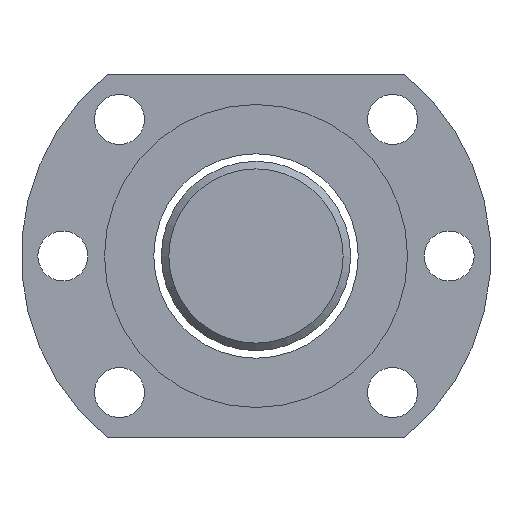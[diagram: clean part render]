
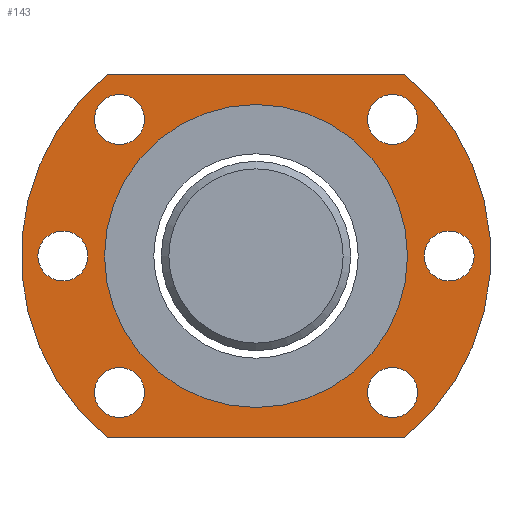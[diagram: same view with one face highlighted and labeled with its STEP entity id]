
A CAD part, left-side view. The second image highlights one B-rep face of the part: STEP entity #143.
In plain terms, the highlighted planar face has unit normal (-1, 0, 0).
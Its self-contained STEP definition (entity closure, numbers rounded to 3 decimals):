
#115=LINE('',#622,#123);
#116=LINE('',#626,#124);
#123=VECTOR('',#520,1.);
#124=VECTOR('',#523,1.);
#132=PLANE('',#452);
#143=ADVANCED_FACE('',(#189,#190,#191,#192,#193,#194,#195,#196),#132,.T.);
#189=FACE_BOUND('',#233,.T.);
#190=FACE_BOUND('',#234,.T.);
#191=FACE_BOUND('',#235,.T.);
#192=FACE_BOUND('',#236,.T.);
#193=FACE_BOUND('',#237,.T.);
#194=FACE_BOUND('',#238,.T.);
#195=FACE_BOUND('',#239,.T.);
#196=FACE_BOUND('',#240,.T.);
#233=EDGE_LOOP('',(#286));
#234=EDGE_LOOP('',(#287));
#235=EDGE_LOOP('',(#288,#289,#290,#291));
#236=EDGE_LOOP('',(#292));
#237=EDGE_LOOP('',(#293));
#238=EDGE_LOOP('',(#294));
#239=EDGE_LOOP('',(#295));
#240=EDGE_LOOP('',(#296));
#286=ORIENTED_EDGE('',*,*,#379,.T.);
#287=ORIENTED_EDGE('',*,*,#368,.F.);
#288=ORIENTED_EDGE('',*,*,#380,.T.);
#289=ORIENTED_EDGE('',*,*,#381,.T.);
#290=ORIENTED_EDGE('',*,*,#382,.T.);
#291=ORIENTED_EDGE('',*,*,#383,.T.);
#292=ORIENTED_EDGE('',*,*,#384,.F.);
#293=ORIENTED_EDGE('',*,*,#385,.F.);
#294=ORIENTED_EDGE('',*,*,#386,.F.);
#295=ORIENTED_EDGE('',*,*,#387,.T.);
#296=ORIENTED_EDGE('',*,*,#388,.T.);
#338=VERTEX_POINT('',#594);
#349=VERTEX_POINT('',#618);
#350=VERTEX_POINT('',#620);
#351=VERTEX_POINT('',#621);
#352=VERTEX_POINT('',#623);
#353=VERTEX_POINT('',#625);
#354=VERTEX_POINT('',#628);
#355=VERTEX_POINT('',#630);
#356=VERTEX_POINT('',#632);
#357=VERTEX_POINT('',#634);
#358=VERTEX_POINT('',#636);
#368=EDGE_CURVE('',#338,#338,#402,.T.);
#379=EDGE_CURVE('',#349,#349,#411,.T.);
#380=EDGE_CURVE('',#350,#351,#412,.T.);
#381=EDGE_CURVE('',#351,#352,#115,.T.);
#382=EDGE_CURVE('',#352,#353,#413,.T.);
#383=EDGE_CURVE('',#353,#350,#116,.T.);
#384=EDGE_CURVE('',#354,#354,#414,.T.);
#385=EDGE_CURVE('',#355,#355,#415,.T.);
#386=EDGE_CURVE('',#356,#356,#416,.T.);
#387=EDGE_CURVE('',#357,#357,#417,.T.);
#388=EDGE_CURVE('',#358,#358,#418,.T.);
#402=CIRCLE('',#433,20.);
#411=CIRCLE('',#444,3.3);
#412=CIRCLE('',#445,31.);
#413=CIRCLE('',#446,31.);
#414=CIRCLE('',#447,3.3);
#415=CIRCLE('',#448,3.3);
#416=CIRCLE('',#449,3.3);
#417=CIRCLE('',#450,3.3);
#418=CIRCLE('',#451,3.3);
#433=AXIS2_PLACEMENT_3D('',#593,#492,#493);
#444=AXIS2_PLACEMENT_3D('',#617,#516,#517);
#445=AXIS2_PLACEMENT_3D('',#619,#518,#519);
#446=AXIS2_PLACEMENT_3D('',#624,#521,#522);
#447=AXIS2_PLACEMENT_3D('',#627,#524,#525);
#448=AXIS2_PLACEMENT_3D('',#629,#526,#527);
#449=AXIS2_PLACEMENT_3D('',#631,#528,#529);
#450=AXIS2_PLACEMENT_3D('',#633,#530,#531);
#451=AXIS2_PLACEMENT_3D('',#635,#532,#533);
#452=AXIS2_PLACEMENT_3D('',#637,#534,#535);
#492=DIRECTION('',(-1.,0.,0.));
#493=DIRECTION('',(0.,0.,-1.));
#516=DIRECTION('',(1.,0.,0.));
#517=DIRECTION('',(0.,0.,1.));
#518=DIRECTION('',(-1.,0.,0.));
#519=DIRECTION('',(0.,0.,-1.));
#520=DIRECTION('',(0.,-1.,0.));
#521=DIRECTION('',(-1.,0.,0.));
#522=DIRECTION('',(0.,0.,-1.));
#523=DIRECTION('',(0.,1.,0.));
#524=DIRECTION('',(-1.,0.,0.));
#525=DIRECTION('',(0.,0.,1.));
#526=DIRECTION('',(-1.,0.,0.));
#527=DIRECTION('',(0.,0.,1.));
#528=DIRECTION('',(-1.,0.,0.));
#529=DIRECTION('',(0.,0.,1.));
#530=DIRECTION('',(1.,0.,0.));
#531=DIRECTION('',(0.,0.,1.));
#532=DIRECTION('',(1.,0.,0.));
#533=DIRECTION('',(0.,0.,1.));
#534=DIRECTION('',(-1.,0.,0.));
#535=DIRECTION('',(0.,0.,-1.));
#593=CARTESIAN_POINT('',(-65.485,-52.353,-3.633));
#594=CARTESIAN_POINT('',(-65.485,-52.353,-23.633));
#617=CARTESIAN_POINT('',(-65.485,-77.853,-3.633));
#618=CARTESIAN_POINT('',(-65.485,-77.853,-0.333));
#619=CARTESIAN_POINT('',(-65.485,-52.353,-3.633));
#620=CARTESIAN_POINT('',(-65.485,-32.731,20.367));
#621=CARTESIAN_POINT('',(-65.485,-32.731,-27.633));
#622=CARTESIAN_POINT('',(-65.485,-32.731,-27.633));
#623=CARTESIAN_POINT('',(-65.485,-71.974,-27.633));
#624=CARTESIAN_POINT('',(-65.485,-52.353,-3.633));
#625=CARTESIAN_POINT('',(-65.485,-71.974,20.367));
#626=CARTESIAN_POINT('',(-65.485,-71.974,20.367));
#627=CARTESIAN_POINT('',(-65.485,-26.853,-3.633));
#628=CARTESIAN_POINT('',(-65.485,-26.853,-0.333));
#629=CARTESIAN_POINT('',(-65.485,-34.322,14.398));
#630=CARTESIAN_POINT('',(-65.485,-34.322,17.698));
#631=CARTESIAN_POINT('',(-65.485,-34.322,-21.665));
#632=CARTESIAN_POINT('',(-65.485,-34.322,-18.365));
#633=CARTESIAN_POINT('',(-65.485,-70.384,-21.665));
#634=CARTESIAN_POINT('',(-65.485,-70.384,-18.365));
#635=CARTESIAN_POINT('',(-65.485,-70.384,14.398));
#636=CARTESIAN_POINT('',(-65.485,-70.384,17.698));
#637=CARTESIAN_POINT('',(-65.485,-52.353,-3.633));
